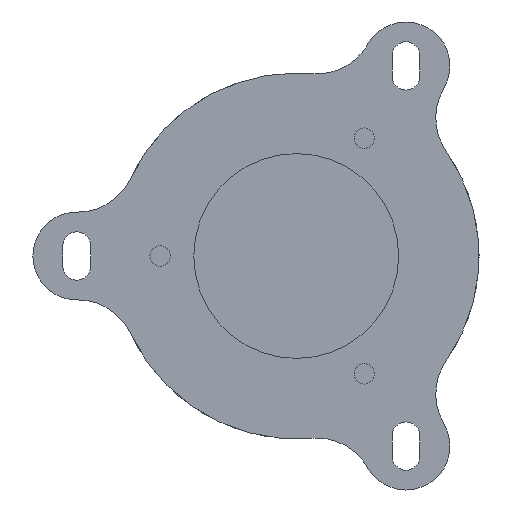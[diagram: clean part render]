
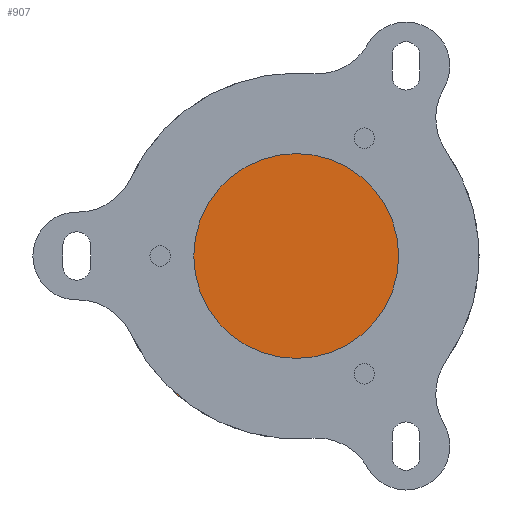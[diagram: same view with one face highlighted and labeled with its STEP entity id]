
A CAD part, front view. The second image highlights one B-rep face of the part: STEP entity #907.
In plain terms, the highlighted planar face has unit normal (0, -1, 0).
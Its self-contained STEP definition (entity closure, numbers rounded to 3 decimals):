
#400=CIRCLE('',#4629,62.5);
#401=CIRCLE('',#4630,62.5);
#907=ADVANCED_FACE('NONE',(#1282),#1081,.T.);
#1081=PLANE('',#4631);
#1282=FACE_OUTER_BOUND('',#1546,.T.);
#1546=EDGE_LOOP('',(#2410,#2411));
#2410=ORIENTED_EDGE('',*,*,#3488,.F.);
#2411=ORIENTED_EDGE('',*,*,#3489,.F.);
#2993=VERTEX_POINT('',#6864);
#2994=VERTEX_POINT('',#6865);
#3488=EDGE_CURVE('NONE',#2993,#2994,#400,.T.);
#3489=EDGE_CURVE('NONE',#2994,#2993,#401,.T.);
#4629=AXIS2_PLACEMENT_3D('',#6863,#5645,#5646);
#4630=AXIS2_PLACEMENT_3D('',#6866,#5647,#5648);
#4631=AXIS2_PLACEMENT_3D('',#6867,#5649,#5650);
#5645=DIRECTION('',(0.,1.,0.));
#5646=DIRECTION('',(0.,0.,-1.));
#5647=DIRECTION('',(0.,1.,0.));
#5648=DIRECTION('',(0.,0.,-1.));
#5649=DIRECTION('',(0.,-1.,0.));
#5650=DIRECTION('',(0.,0.,-1.));
#6863=CARTESIAN_POINT('',(-968.317,-1792.67,0.));
#6864=CARTESIAN_POINT('',(-968.317,-1792.67,-62.5));
#6865=CARTESIAN_POINT('',(-968.317,-1792.67,62.5));
#6866=CARTESIAN_POINT('',(-968.317,-1792.67,0.));
#6867=CARTESIAN_POINT('',(-968.317,-1792.67,0.));
